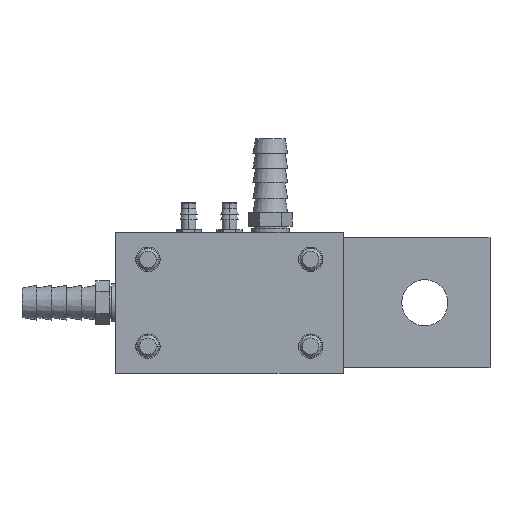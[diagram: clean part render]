
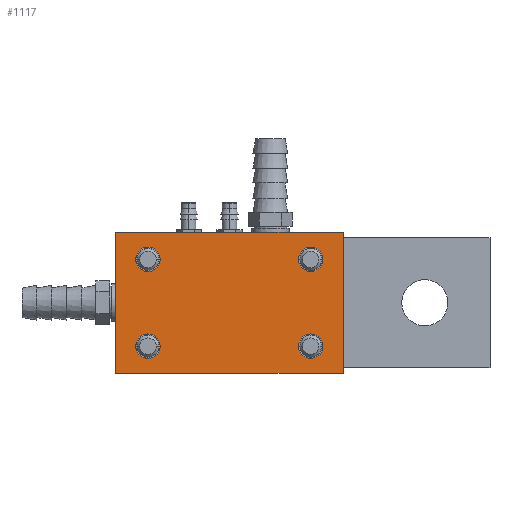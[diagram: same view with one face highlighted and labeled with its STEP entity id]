
A CAD part, left-side view. The second image highlights one B-rep face of the part: STEP entity #1117.
In plain terms, the highlighted planar face has unit normal (-1, 0, 0).
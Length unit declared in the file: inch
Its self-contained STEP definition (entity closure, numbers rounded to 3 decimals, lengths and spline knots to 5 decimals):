
#852=CARTESIAN_POINT('',(-3.6875,-0.935,-0.5));
#853=DIRECTION('',(1.,0.,0.));
#854=DIRECTION('',(0.,-1.,0.));
#855=AXIS2_PLACEMENT_3D('',#852,#853,#854);
#857=CARTESIAN_POINT('',(-3.6875,-0.935,-0.5));
#858=DIRECTION('',(1.,0.,0.));
#859=DIRECTION('',(0.,1.,0.));
#860=AXIS2_PLACEMENT_3D('',#857,#858,#859);
#862=CARTESIAN_POINT('',(-3.6875,-0.935,0.5));
#863=DIRECTION('',(1.,0.,0.));
#864=DIRECTION('',(0.,-1.,0.));
#865=AXIS2_PLACEMENT_3D('',#862,#863,#864);
#867=CARTESIAN_POINT('',(-3.6875,-0.935,0.5));
#868=DIRECTION('',(1.,0.,0.));
#869=DIRECTION('',(0.,1.,0.));
#870=AXIS2_PLACEMENT_3D('',#867,#868,#869);
#872=CARTESIAN_POINT('',(-3.6875,0.94,-0.5));
#873=DIRECTION('',(1.,0.,0.));
#874=DIRECTION('',(0.,-1.,0.));
#875=AXIS2_PLACEMENT_3D('',#872,#873,#874);
#877=CARTESIAN_POINT('',(-3.6875,0.94,-0.5));
#878=DIRECTION('',(1.,0.,0.));
#879=DIRECTION('',(0.,1.,0.));
#880=AXIS2_PLACEMENT_3D('',#877,#878,#879);
#882=CARTESIAN_POINT('',(-3.6875,0.94,0.5));
#883=DIRECTION('',(1.,0.,0.));
#884=DIRECTION('',(0.,-1.,0.));
#885=AXIS2_PLACEMENT_3D('',#882,#883,#884);
#887=CARTESIAN_POINT('',(-3.6875,0.94,0.5));
#888=DIRECTION('',(1.,0.,0.));
#889=DIRECTION('',(0.,1.,0.));
#890=AXIS2_PLACEMENT_3D('',#887,#888,#889);
#920=DIRECTION('',(0.,-1.,0.));
#921=VECTOR('',#920,2.625);
#922=CARTESIAN_POINT('',(-3.6875,1.315,0.8125));
#923=LINE('',#922,#921);
#928=DIRECTION('',(0.,0.,-1.));
#929=VECTOR('',#928,1.625);
#930=CARTESIAN_POINT('',(-3.6875,-1.31,0.8125));
#931=LINE('',#930,#929);
#940=DIRECTION('',(0.,1.,0.));
#941=VECTOR('',#940,2.625);
#942=CARTESIAN_POINT('',(-3.6875,-1.31,-0.8125));
#943=LINE('',#942,#941);
#956=DIRECTION('',(0.,0.,1.));
#957=VECTOR('',#956,1.625);
#958=CARTESIAN_POINT('',(-3.6875,1.315,-0.8125));
#959=LINE('',#958,#957);
#970=CARTESIAN_POINT('',(-3.6875,1.315,-0.8125));
#971=VERTEX_POINT('',#970);
#972=CARTESIAN_POINT('',(-3.6875,1.315,0.8125));
#973=VERTEX_POINT('',#972);
#976=CARTESIAN_POINT('',(-3.6875,-1.31,-0.8125));
#977=VERTEX_POINT('',#976);
#978=CARTESIAN_POINT('',(-3.6875,-1.31,0.8125));
#979=VERTEX_POINT('',#978);
#980=CARTESIAN_POINT('',(-3.6875,-1.07563,-0.5));
#982=VERTEX_POINT('',#980);
#984=CARTESIAN_POINT('',(-3.6875,-0.79438,-0.5));
#986=VERTEX_POINT('',#984);
#988=CARTESIAN_POINT('',(-3.6875,-1.07563,0.5));
#990=VERTEX_POINT('',#988);
#992=CARTESIAN_POINT('',(-3.6875,-0.79438,0.5));
#994=VERTEX_POINT('',#992);
#996=CARTESIAN_POINT('',(-3.6875,0.79938,-0.5));
#998=VERTEX_POINT('',#996);
#1000=CARTESIAN_POINT('',(-3.6875,1.08063,-0.5));
#1002=VERTEX_POINT('',#1000);
#1004=CARTESIAN_POINT('',(-3.6875,0.79938,0.5));
#1006=VERTEX_POINT('',#1004);
#1008=CARTESIAN_POINT('',(-3.6875,1.08063,0.5));
#1010=VERTEX_POINT('',#1008);
#1080=CARTESIAN_POINT('',(-3.6875,0.0025,0.));
#1081=DIRECTION('',(-1.,0.,0.));
#1082=DIRECTION('',(0.,1.,0.));
#1083=AXIS2_PLACEMENT_3D('',#1080,#1081,#1082);
#1084=PLANE('',#1083);
#1086=ORIENTED_EDGE('',*,*,#1085,.T.);
#1088=ORIENTED_EDGE('',*,*,#1087,.T.);
#1090=ORIENTED_EDGE('',*,*,#1089,.T.);
#1092=ORIENTED_EDGE('',*,*,#1091,.T.);
#1093=EDGE_LOOP('',(#1086,#1088,#1090,#1092));
#1094=FACE_OUTER_BOUND('',#1093,.F.);
#1096=ORIENTED_EDGE('',*,*,#1095,.F.);
#1098=ORIENTED_EDGE('',*,*,#1097,.F.);
#1099=EDGE_LOOP('',(#1096,#1098));
#1100=FACE_BOUND('',#1099,.F.);
#1102=ORIENTED_EDGE('',*,*,#1101,.F.);
#1104=ORIENTED_EDGE('',*,*,#1103,.F.);
#1105=EDGE_LOOP('',(#1102,#1104));
#1106=FACE_BOUND('',#1105,.F.);
#1108=ORIENTED_EDGE('',*,*,#1107,.F.);
#1110=ORIENTED_EDGE('',*,*,#1109,.F.);
#1111=EDGE_LOOP('',(#1108,#1110));
#1112=FACE_BOUND('',#1111,.F.);
#1113=ORIENTED_EDGE('',*,*,#1021,.F.);
#1114=ORIENTED_EDGE('',*,*,#1074,.F.);
#1115=EDGE_LOOP('',(#1113,#1114));
#1116=FACE_BOUND('',#1115,.F.);
#856=CIRCLE('',#855,0.14063);
#861=CIRCLE('',#860,0.14063);
#866=CIRCLE('',#865,0.14063);
#871=CIRCLE('',#870,0.14063);
#876=CIRCLE('',#875,0.14063);
#881=CIRCLE('',#880,0.14063);
#886=CIRCLE('',#885,0.14063);
#891=CIRCLE('',#890,0.14063);
#1021=EDGE_CURVE('',#982,#986,#856,.T.);
#1074=EDGE_CURVE('',#986,#982,#861,.T.);
#1085=EDGE_CURVE('',#973,#979,#923,.T.);
#1087=EDGE_CURVE('',#979,#977,#931,.T.);
#1089=EDGE_CURVE('',#977,#971,#943,.T.);
#1091=EDGE_CURVE('',#971,#973,#959,.T.);
#1095=EDGE_CURVE('',#990,#994,#866,.T.);
#1097=EDGE_CURVE('',#994,#990,#871,.T.);
#1101=EDGE_CURVE('',#998,#1002,#876,.T.);
#1103=EDGE_CURVE('',#1002,#998,#881,.T.);
#1107=EDGE_CURVE('',#1006,#1010,#886,.T.);
#1109=EDGE_CURVE('',#1010,#1006,#891,.T.);
#1117=ADVANCED_FACE('',(#1094,#1100,#1106,#1112,#1116),#1084,.T.);
